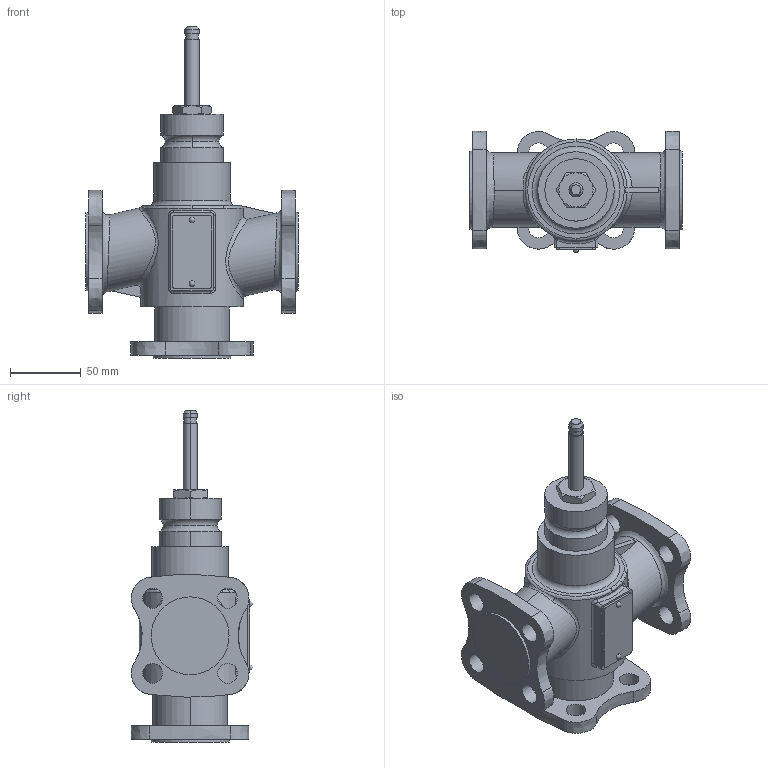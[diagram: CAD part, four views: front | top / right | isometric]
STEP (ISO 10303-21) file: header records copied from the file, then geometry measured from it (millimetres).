
FILE_DESCRIPTION(/* description */ ('Step214'),/* implementation_level */ '2;1');
FILE_NAME(/* name */ 'VXF53 DN20 RF.stp',/* time_stamp */ '2015-11-04T13:30:06+01:00',/* author */ (''),/* organization */ ('Siemens'),/* preprocessor_version */ 'ST-DEVELOPER v15',/* originating_system */ 'SIEMENS PLM Software NX 8.5',/* authorisation */ 'for Duktil only');
FILE_SCHEMA (('AUTOMOTIVE_DESIGN { 1 0 10303 214 3 1 1 1 }'));
Length unit declared in the file: millimetre
Products named in the file (1): Volc0CEC07D0af0g
Bounding box: 150 x 85.58 x 234.5 mm (x, y, z)
Volume: 799371.1 mm3; surface area: 88071.9 mm2
Topology: 1 solids, 1 shells, 134 faces, 346 edges, 227 vertices
Faces by surface type: cylinder 43, plane 39, extrusion 24, torus 10, bspline 10, cone 6, sphere 2
Full cylindrical faces by diameter (mm): 14 x12, 54 x1, 55 x2
Entity records: 6764 total; most frequent: CARTESIAN_POINT 3721, ORIENTED_EDGE 626, DIRECTION 554, EDGE_CURVE 313, AXIS2_PLACEMENT_3D 216, VERTEX_POINT 215, EDGE_LOOP 192, ADVANCED_FACE 134
